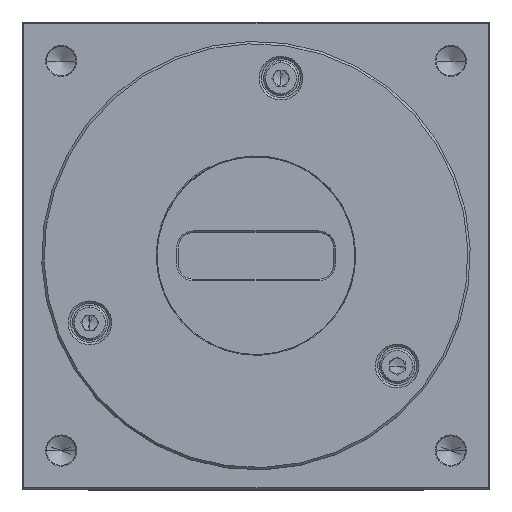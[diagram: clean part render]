
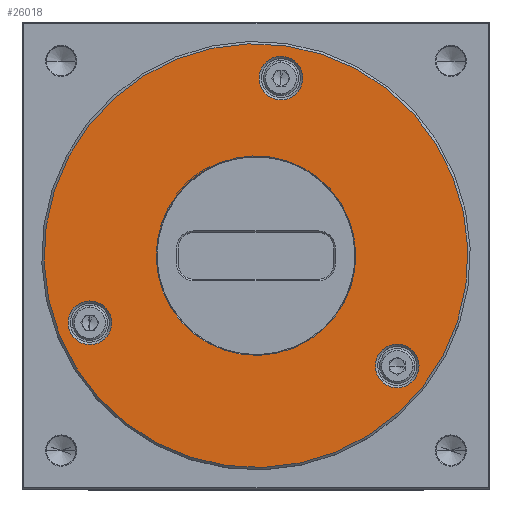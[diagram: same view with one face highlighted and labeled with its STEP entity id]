
A CAD part, top view. The second image highlights one B-rep face of the part: STEP entity #26018.
In plain terms, the highlighted planar face has unit normal (0, 0, 1).
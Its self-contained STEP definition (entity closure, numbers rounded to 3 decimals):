
#361 = EDGE_CURVE ( 'NONE', #31737, #11395, #6107, .T. ) ;
#887 = DIRECTION ( 'NONE',  ( 1., 0., 0. ) ) ;
#1190 = CARTESIAN_POINT ( 'NONE',  ( 0., 0., 0. ) ) ;
#1360 = DIRECTION ( 'NONE',  ( 1., 0., 0. ) ) ;
#1503 = EDGE_LOOP ( 'NONE', ( #27596, #40716 ) ) ;
#1771 = DIRECTION ( 'NONE',  ( 1., 0., 0. ) ) ;
#2439 = AXIS2_PLACEMENT_3D ( 'NONE', #30579, #9935, #34026 ) ;
#2683 = DIRECTION ( 'NONE',  ( 0., 0., -1. ) ) ;
#3182 = EDGE_LOOP ( 'NONE', ( #16158, #27683 ) ) ;
#4658 = DIRECTION ( 'NONE',  ( 1., 0., 0. ) ) ;
#4751 = VERTEX_POINT ( 'NONE', #37609 ) ;
#4969 = EDGE_LOOP ( 'NONE', ( #5017, #27733 ) ) ;
#5017 = ORIENTED_EDGE ( 'NONE', *, *, #22378, .T. ) ;
#5123 = VERTEX_POINT ( 'NONE', #11802 ) ;
#5154 = FACE_BOUND ( 'NONE', #1503, .T. ) ;
#5253 = AXIS2_PLACEMENT_3D ( 'NONE', #43042, #22451, #1771 ) ;
#6107 = CIRCLE ( 'NONE', #35528, 2.8 ) ;
#6269 = FACE_BOUND ( 'NONE', #4969, .T. ) ;
#6329 = ORIENTED_EDGE ( 'NONE', *, *, #361, .T. ) ;
#6672 = CARTESIAN_POINT ( 'NONE',  ( -12.8, 0., 0. ) ) ;
#7014 = ORIENTED_EDGE ( 'NONE', *, *, #13194, .T. ) ;
#7218 = CIRCLE ( 'NONE', #5253, 12.8 ) ;
#8328 = EDGE_CURVE ( 'NONE', #15079, #11574, #21611, .T. ) ;
#9149 = DIRECTION ( 'NONE',  ( 0., 0., -1. ) ) ;
#9386 = ORIENTED_EDGE ( 'NONE', *, *, #40096, .T. ) ;
#9935 = DIRECTION ( 'NONE',  ( 0., 0., -1. ) ) ;
#10366 = CARTESIAN_POINT ( 'NONE',  ( 23., 0., 0. ) ) ;
#10964 = CIRCLE ( 'NONE', #37286, 2.8 ) ;
#11204 = DIRECTION ( 'NONE',  ( 0., 0., -1. ) ) ;
#11395 = VERTEX_POINT ( 'NONE', #18688 ) ;
#11574 = VERTEX_POINT ( 'NONE', #38897 ) ;
#11629 = CARTESIAN_POINT ( 'NONE',  ( 0., 0., 0. ) ) ;
#11802 = CARTESIAN_POINT ( 'NONE',  ( -14.3, 19.919, 0. ) ) ;
#11839 = CIRCLE ( 'NONE', #25030, 12.8 ) ;
#12344 = VERTEX_POINT ( 'NONE', #24881 ) ;
#13194 = EDGE_CURVE ( 'NONE', #11395, #31737, #42372, .T. ) ;
#13811 = DIRECTION ( 'NONE',  ( 1., 0., 0. ) ) ;
#14333 = FACE_OUTER_BOUND ( 'NONE', #32857, .T. ) ;
#15079 = VERTEX_POINT ( 'NONE', #37525 ) ;
#15479 = EDGE_CURVE ( 'NONE', #38353, #33571, #7218, .T. ) ;
#16045 = AXIS2_PLACEMENT_3D ( 'NONE', #1190, #25309, #4658 ) ;
#16126 = CARTESIAN_POINT ( 'NONE',  ( -11.5, -19.919, 0. ) ) ;
#16158 = ORIENTED_EDGE ( 'NONE', *, *, #40555, .T. ) ;
#16217 = CIRCLE ( 'NONE', #2439, 2.8 ) ;
#17375 = AXIS2_PLACEMENT_3D ( 'NONE', #42167, #21554, #887 ) ;
#18301 = AXIS2_PLACEMENT_3D ( 'NONE', #10366, #34429, #13811 ) ;
#18688 = CARTESIAN_POINT ( 'NONE',  ( -8.7, -19.919, 0. ) ) ;
#19624 = DIRECTION ( 'NONE',  ( 1., 0., 0. ) ) ;
#19908 = ORIENTED_EDGE ( 'NONE', *, *, #43664, .T. ) ;
#20213 = CARTESIAN_POINT ( 'NONE',  ( 27.2, 0., 0. ) ) ;
#20405 = EDGE_CURVE ( 'NONE', #11574, #15079, #16217, .T. ) ;
#20657 = CARTESIAN_POINT ( 'NONE',  ( -11.5, -19.919, 0. ) ) ;
#21554 = DIRECTION ( 'NONE',  ( 0., 0., 1. ) ) ;
#21611 = CIRCLE ( 'NONE', #18301, 2.8 ) ;
#22027 = DIRECTION ( 'NONE',  ( 0., 0., -1. ) ) ;
#22076 = PLANE ( 'NONE',  #30034 ) ;
#22378 = EDGE_CURVE ( 'NONE', #33571, #38353, #11839, .T. ) ;
#22451 = DIRECTION ( 'NONE',  ( 0., 0., -1. ) ) ;
#22947 = CARTESIAN_POINT ( 'NONE',  ( -14.3, -19.919, 0. ) ) ;
#23077 = AXIS2_PLACEMENT_3D ( 'NONE', #16126, #40219, #19624 ) ;
#23332 = CARTESIAN_POINT ( 'NONE',  ( -11.5, 19.919, 0. ) ) ;
#23563 = VERTEX_POINT ( 'NONE', #20213 ) ;
#24116 = DIRECTION ( 'NONE',  ( 1., 0., 0. ) ) ;
#24881 = CARTESIAN_POINT ( 'NONE',  ( -8.7, 19.919, 0. ) ) ;
#25030 = AXIS2_PLACEMENT_3D ( 'NONE', #42641, #22027, #1360 ) ;
#25245 = EDGE_CURVE ( 'NONE', #5123, #12344, #27843, .T. ) ;
#25309 = DIRECTION ( 'NONE',  ( 0., 0., 1. ) ) ;
#25668 = AXIS2_PLACEMENT_3D ( 'NONE', #23332, #2683, #26794 ) ;
#26018 = ADVANCED_FACE ( 'NONE', ( #6269, #40744, #33722, #5154, #14333 ), #22076, .T. ) ;
#26794 = DIRECTION ( 'NONE',  ( 1., 0., 0. ) ) ;
#27596 = ORIENTED_EDGE ( 'NONE', *, *, #20405, .T. ) ;
#27683 = ORIENTED_EDGE ( 'NONE', *, *, #25245, .T. ) ;
#27733 = ORIENTED_EDGE ( 'NONE', *, *, #15479, .T. ) ;
#27843 = CIRCLE ( 'NONE', #25668, 2.8 ) ;
#28548 = CIRCLE ( 'NONE', #16045, 27.2 ) ;
#28972 = DIRECTION ( 'NONE',  ( 1., 0., 0. ) ) ;
#29794 = CARTESIAN_POINT ( 'NONE',  ( -11.5, 19.919, 0. ) ) ;
#30034 = AXIS2_PLACEMENT_3D ( 'NONE', #11629, #35721, #28972 ) ;
#30579 = CARTESIAN_POINT ( 'NONE',  ( 23., 0., 0. ) ) ;
#30834 = CARTESIAN_POINT ( 'NONE',  ( 12.8, 0., 0. ) ) ;
#31737 = VERTEX_POINT ( 'NONE', #22947 ) ;
#32020 = CIRCLE ( 'NONE', #17375, 27.2 ) ;
#32857 = EDGE_LOOP ( 'NONE', ( #9386, #19908 ) ) ;
#33217 = DIRECTION ( 'NONE',  ( 1., 0., 0. ) ) ;
#33524 = EDGE_LOOP ( 'NONE', ( #7014, #6329 ) ) ;
#33571 = VERTEX_POINT ( 'NONE', #30834 ) ;
#33722 = FACE_BOUND ( 'NONE', #3182, .T. ) ;
#34026 = DIRECTION ( 'NONE',  ( 1., 0., 0. ) ) ;
#34429 = DIRECTION ( 'NONE',  ( 0., 0., -1. ) ) ;
#35528 = AXIS2_PLACEMENT_3D ( 'NONE', #20657, #11204, #24116 ) ;
#35721 = DIRECTION ( 'NONE',  ( 0., 0., 1. ) ) ;
#37286 = AXIS2_PLACEMENT_3D ( 'NONE', #29794, #9149, #33217 ) ;
#37525 = CARTESIAN_POINT ( 'NONE',  ( 20.2, 0., 0. ) ) ;
#37609 = CARTESIAN_POINT ( 'NONE',  ( -27.2, 0., 0. ) ) ;
#38353 = VERTEX_POINT ( 'NONE', #6672 ) ;
#38897 = CARTESIAN_POINT ( 'NONE',  ( 25.8, 0., 0. ) ) ;
#40096 = EDGE_CURVE ( 'NONE', #4751, #23563, #32020, .T. ) ;
#40219 = DIRECTION ( 'NONE',  ( 0., 0., -1. ) ) ;
#40555 = EDGE_CURVE ( 'NONE', #12344, #5123, #10964, .T. ) ;
#40716 = ORIENTED_EDGE ( 'NONE', *, *, #8328, .T. ) ;
#40744 = FACE_BOUND ( 'NONE', #33524, .T. ) ;
#42167 = CARTESIAN_POINT ( 'NONE',  ( 0., 0., 0. ) ) ;
#42372 = CIRCLE ( 'NONE', #23077, 2.8 ) ;
#42641 = CARTESIAN_POINT ( 'NONE',  ( 0., 0., 0. ) ) ;
#43042 = CARTESIAN_POINT ( 'NONE',  ( 0., 0., 0. ) ) ;
#43664 = EDGE_CURVE ( 'NONE', #23563, #4751, #28548, .T. ) ;
